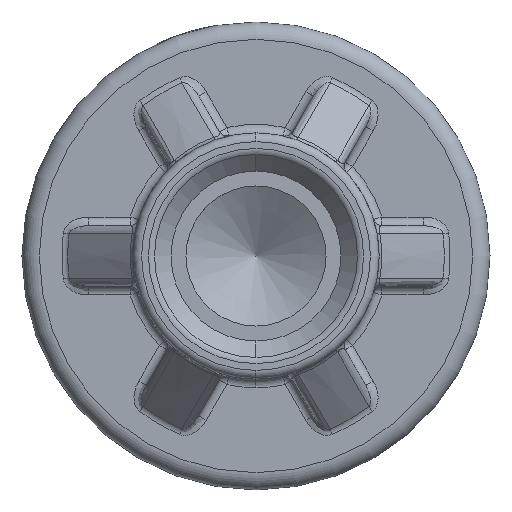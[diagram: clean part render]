
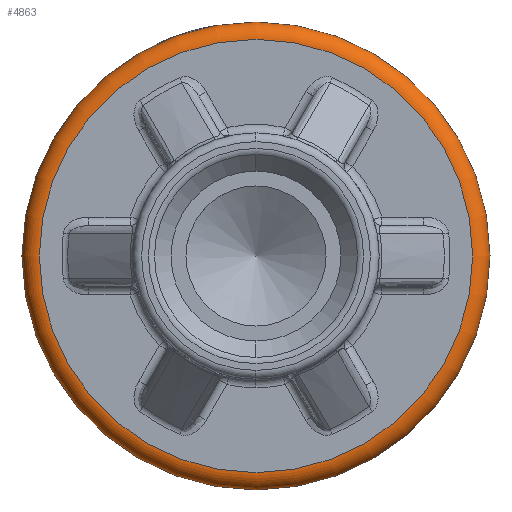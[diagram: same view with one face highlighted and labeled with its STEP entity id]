
A CAD part, left-side view. The second image highlights one B-rep face of the part: STEP entity #4863.
In plain terms, the highlighted toroidal (fillet/blend) face has major radius 6.25 mm and minor radius 0.5 mm.
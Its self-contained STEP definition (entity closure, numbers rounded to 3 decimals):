
#898=FACE_OUTER_BOUND('',#1207,.T.);
#1207=EDGE_LOOP('',(#3083,#3084,#3085,#3086,#3087,#3088,#3089));
#1562=CIRCLE('',#5244,6.75);
#1563=CIRCLE('',#5245,0.5);
#1564=CIRCLE('',#5246,6.25);
#1565=CIRCLE('',#5247,6.25);
#1566=CIRCLE('',#5248,6.75);
#1567=CIRCLE('',#5249,6.75);
#1894=VERTEX_POINT('',#7126);
#1895=VERTEX_POINT('',#7127);
#1896=VERTEX_POINT('',#7129);
#1897=VERTEX_POINT('',#7131);
#1898=VERTEX_POINT('',#7134);
#2340=EDGE_CURVE('',#1894,#1895,#1562,.T.);
#2341=EDGE_CURVE('',#1894,#1896,#1563,.T.);
#2342=EDGE_CURVE('',#1897,#1896,#1564,.T.);
#2343=EDGE_CURVE('',#1896,#1897,#1565,.T.);
#2344=EDGE_CURVE('',#1898,#1894,#1566,.T.);
#2345=EDGE_CURVE('',#1895,#1898,#1567,.T.);
#3083=ORIENTED_EDGE('',*,*,#2340,.F.);
#3084=ORIENTED_EDGE('',*,*,#2341,.T.);
#3085=ORIENTED_EDGE('',*,*,#2342,.F.);
#3086=ORIENTED_EDGE('',*,*,#2343,.F.);
#3087=ORIENTED_EDGE('',*,*,#2341,.F.);
#3088=ORIENTED_EDGE('',*,*,#2344,.F.);
#3089=ORIENTED_EDGE('',*,*,#2345,.F.);
#4499=TOROIDAL_SURFACE('',#5243,6.25,0.5);
#4863=ADVANCED_FACE('',(#898),#4499,.T.);
#5243=AXIS2_PLACEMENT_3D('',#7125,#5862,#5863);
#5244=AXIS2_PLACEMENT_3D('',#7128,#5864,#5865);
#5245=AXIS2_PLACEMENT_3D('',#7130,#5866,#5867);
#5246=AXIS2_PLACEMENT_3D('',#7132,#5868,#5869);
#5247=AXIS2_PLACEMENT_3D('',#7133,#5870,#5871);
#5248=AXIS2_PLACEMENT_3D('',#7135,#5872,#5873);
#5249=AXIS2_PLACEMENT_3D('',#7136,#5874,#5875);
#5862=DIRECTION('center_axis',(1.,0.,0.));
#5863=DIRECTION('ref_axis',(0.,0.,-1.));
#5864=DIRECTION('center_axis',(1.,0.,0.));
#5865=DIRECTION('ref_axis',(0.,0.,
1.));
#5866=DIRECTION('center_axis',(0.,-1.,0.));
#5867=DIRECTION('ref_axis',(0.,0.,
1.));
#5868=DIRECTION('center_axis',(-1.,0.,0.));
#5869=DIRECTION('ref_axis',(0.,0.,
-1.));
#5870=DIRECTION('center_axis',(-1.,0.,0.));
#5871=DIRECTION('ref_axis',(0.,0.,1.));
#5872=DIRECTION('center_axis',(1.,0.,0.));
#5873=DIRECTION('ref_axis',(0.,0.,-1.));
#5874=DIRECTION('center_axis',(1.,0.,0.));
#5875=DIRECTION('ref_axis',(0.,0.,
1.));
#7125=CARTESIAN_POINT('Origin',(-3.375,0.,
0.));
#7126=CARTESIAN_POINT('',(-3.375,0.,6.75));
#7127=CARTESIAN_POINT('',(-3.375,-6.75,0.));
#7128=CARTESIAN_POINT('Origin',(-3.375,0.,0.));
#7129=CARTESIAN_POINT('',(-3.875,0.,6.25));
#7130=CARTESIAN_POINT('Origin',(-3.375,0.,6.25));
#7131=CARTESIAN_POINT('',(-3.875,0.,-6.25));
#7132=CARTESIAN_POINT('Origin',(-3.875,0.,0.));
#7133=CARTESIAN_POINT('Origin',(-3.875,0.,0.));
#7134=CARTESIAN_POINT('',(-3.375,0.,-6.75));
#7135=CARTESIAN_POINT('Origin',(-3.375,0.,0.));
#7136=CARTESIAN_POINT('Origin',(-3.375,0.,0.));
